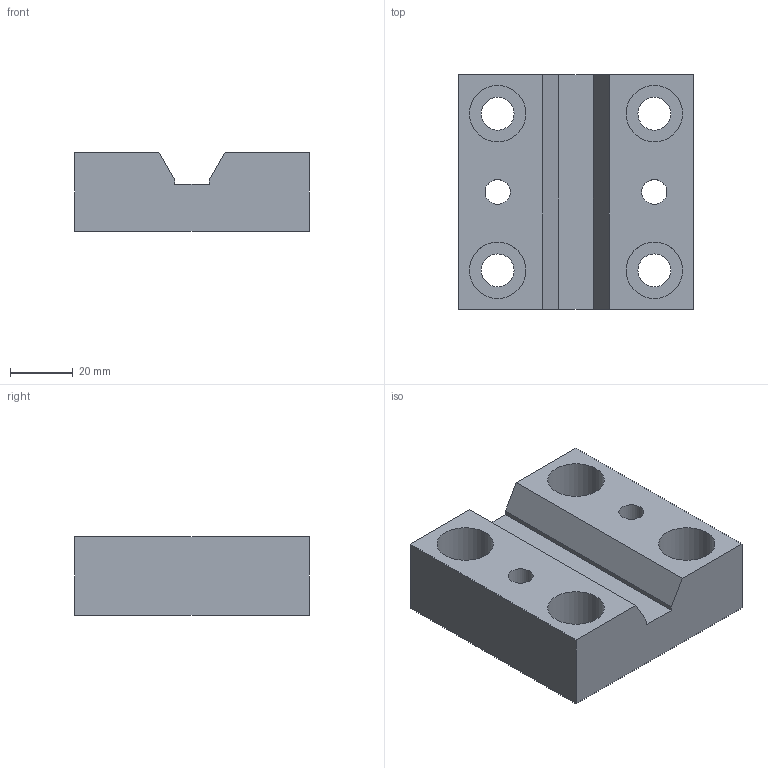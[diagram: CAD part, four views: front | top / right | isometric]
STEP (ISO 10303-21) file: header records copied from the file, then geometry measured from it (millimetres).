
FILE_DESCRIPTION(/* description */ ('2-WAY LOCKOUT RECEIVER'),/* implementation_level */ '2;1');
FILE_NAME(/* name */ 'D:\5-MISC CAD FILES\BP2_RECEIVERS\BP2NE90.stp',/* time_stamp */ '2020-03-19T13:01:59-04:00',/* author */ ('CMcWilliams'),/* organization */ (''),/* preprocessor_version */ 'ST-DEVELOPER v18',/* originating_system */ 'Autodesk Inventor 2020',/* authorisation */ '');
FILE_SCHEMA (('AUTOMOTIVE_DESIGN { 1 0 10303 214 3 1 1 }'));
Length unit declared in the file: inch
Products named in the file (1): BP2NE90
Bounding box: 74.93 x 74.93 x 25 mm (x, y, z)
Volume: 108244.2 mm3; surface area: 24347.1 mm2
Topology: 1 solids, 1 shells, 26 faces, 70 edges, 50 vertices
Faces by surface type: plane 16, cylinder 10
Full cylindrical faces by diameter (mm): 8 x2, 10.5 x4, 18 x4
Entity records: 911 total; most frequent: DIRECTION 154, CARTESIAN_POINT 147, ORIENTED_EDGE 140, EDGE_CURVE 70, AXIS2_PLACEMENT_3D 57, VERTEX_POINT 50, EDGE_LOOP 42, LINE 40
